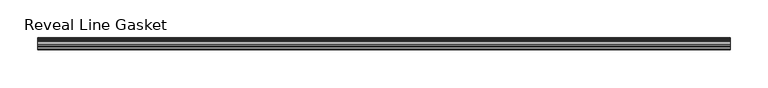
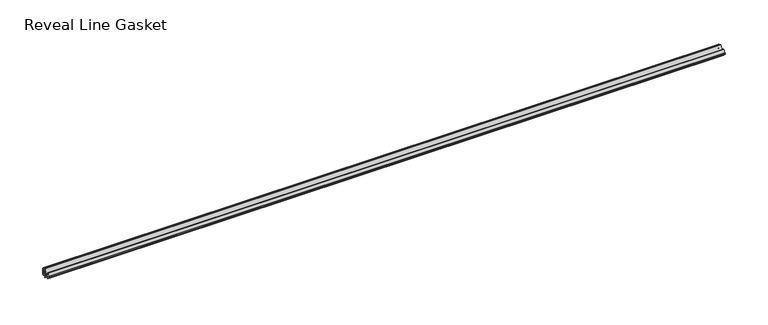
"""IFC4 building model written with IfcOpenShell, lengths in millimetres: proxy geometry, Accessories-Teknion-FHGR-AI_Healthcare-Reveal_Line_Gasket(Horizontal)-R2022 : Reveal Line Gasket."""

from ifc_helpers import new_model, si_unit, point, frame, frame_2d, origin, place, context, project, spatial, polyline, circle_curve, trimmed, segment, composite_curve, outline, extrude, source, transform, mapped, element, save


def reveal_line_gasket_1e26f7ad(model_context):
    return source(origin(), model_context, "Body", "SweptSolid", [
        extrude(outline(composite_curve([segment(polyline([(7.6326998, 1603.2), (7.6326998, 1597.2), (7.4091917, 1596.2445073), (6.8813059, 1595.3115316)]), True, "CONTINUOUS"), segment(trimmed(circle_curve(frame_2d((6.5243141, 1595.5135207)), 0.4101739), [point((6.8813059, 1595.3115316))], [point((6.1246704, 1595.6058653))], False, "CARTESIAN"), True, "CONTINUOUS"), segment(polyline([(6.1246704, 1595.6058653), (6.3626997, 1597.3020914), (6.3626997, 1599.3345473)]), True, "CONTINUOUS"), segment(trimmed(circle_curve(frame_2d((5.6959605, 1598.9180742)), 0.786124), [point((6.3626997, 1599.3345473))], [point((5.0926996, 1599.422125))], True, "CARTESIAN"), True, "CONTINUOUS"), segment(polyline([(5.0926996, 1599.422125), (0.7492996, 1599.422125), (3.7293824, 1594.2604705)]), True, "CONTINUOUS"), segment(trimmed(circle_curve(frame_2d((3.3132479, 1594.1950239)), 0.4212495), [point((3.7293824, 1594.2604705))], [point((3.0485022, 1593.8673642))], False, "CARTESIAN"), True, "CONTINUOUS"), segment(polyline([(3.0485022, 1593.8673642), (-0.5742594, 1599.422125), (-4.8262978, 1599.422125), (-3.1660374, 1596.5464703)]), True, "CONTINUOUS"), segment(trimmed(circle_curve(frame_2d((-3.5978728, 1596.4881145)), 0.4357605), [point((-3.1660374, 1596.5464703))], [point((-3.864328, 1596.1433119))], False, "CARTESIAN"), True, "CONTINUOUS"), segment(polyline([(-3.864328, 1596.1433119), (-6.1944059, 1599.422125), (-7.6326998, 1599.422125), (-7.6326998, 1600.977875), (-6.1944059, 1600.977875), (-3.864328, 1604.2566881)]), True, "CONTINUOUS"), segment(trimmed(circle_curve(frame_2d((-3.5978728, 1603.9118855)), 0.4357605), [point((-3.864328, 1604.2566881))], [point((-3.1660374, 1603.8535297))], False, "CARTESIAN"), True, "CONTINUOUS"), segment(polyline([(-3.1660374, 1603.8535297), (-4.8262978, 1600.977875), (-0.5742594, 1600.977875), (3.0485022, 1606.5326358)]), True, "CONTINUOUS"), segment(trimmed(circle_curve(frame_2d((3.3132479, 1606.2049761)), 0.4212495), [point((3.0485022, 1606.5326358))], [point((3.7293824, 1606.1395295))], False, "CARTESIAN"), True, "CONTINUOUS"), segment(polyline([(3.7293824, 1606.1395295), (0.7492996, 1600.977875), (5.0926996, 1600.977875)]), True, "CONTINUOUS"), segment(trimmed(circle_curve(frame_2d((5.6959605, 1601.4819258)), 0.786124), [point((5.0926996, 1600.977875))], [point((6.3626997, 1601.0654527))], True, "CARTESIAN"), True, "CONTINUOUS"), segment(polyline([(6.3626997, 1601.0654527), (6.3626997, 1603.0979086), (6.1246704, 1604.7941347)]), True, "CONTINUOUS"), segment(trimmed(circle_curve(frame_2d((6.5243141, 1604.8864793)), 0.4101739), [point((6.1246704, 1604.7941347))], [point((6.8813059, 1605.0884684))], False, "CARTESIAN"), True, "CONTINUOUS"), segment(polyline([(6.8813059, 1605.0884684), (7.4091917, 1604.1554927), (7.6326998, 1603.2)]), True, "CONTINUOUS")], self_intersect=False)), frame((-455.3204, 0.0, 0.0), z_axis=(1.0, 0.0, 0.0), x_axis=(0.0, 1.0, 0.0)), (0.0, 0.0, 1.0), 910.6408),
    ])


if __name__ == "__main__":
    model = new_model("IFC4")
    model_context = context("Model", 3, world=origin())
    ifc_project = project(units=[si_unit("LENGTHUNIT", "METRE", prefix="MILLI")], contexts=[model_context])
    site = spatial("IfcSite", under=ifc_project)
    building = spatial("IfcBuilding", under=site)
    placement = place(None, origin())
    reveal_line_gasket_shape = reveal_line_gasket_1e26f7ad(model_context)
    element("IfcBuildingElementProxy", 1, Name="Accessories-Teknion-FHGR-AI_Healthcare-Reveal_Line_Gasket(Horizontal)-R2022 : Reveal Line Gasket", ObjectType="Accessories-Teknion-FHGR-AI_Healthcare-Reveal_Line_Gasket(Horizontal)-R2022 : Reveal Line Gasket", at=placement, inside=building, context=model_context, shape_type="MappedRepresentation", body=[
        mapped(reveal_line_gasket_shape, transform((0.0, 0.0, 0.0), x_axis=(1.0, 0.0, 0.0), y_axis=(0.0, 1.0, 0.0), z_axis=(0.0, 0.0, 1.0))),
    ])
    save(model, "model.ifc")
